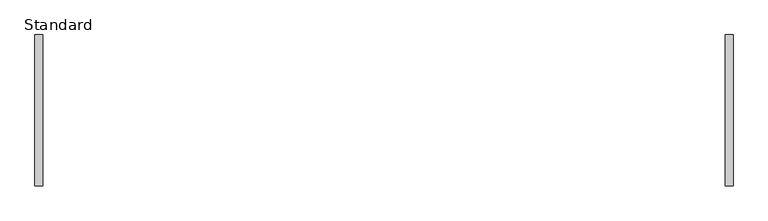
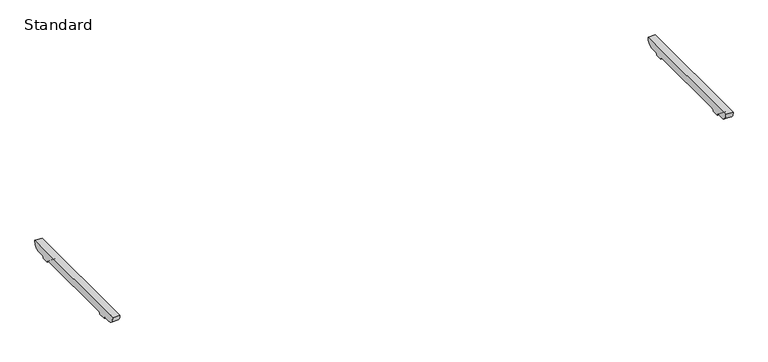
"""IFC4 building model written with IfcOpenShell, lengths in millimetres: furniture geometry, BDG_BossDesign_Tbls_AgentTables4Legs_Nested : Standard."""

from ifc_helpers import new_model, si_unit, point, frame, frame_2d, origin, place, context, project, spatial, polyline, circle_curve, trimmed, segment, composite_curve, outline, extrude, source, transform, mapped, element, save


def standard_79f6cf34(model_context):
    return source(origin(), model_context, "Body", "SweptSolid", [
        extrude(outline(composite_curve([segment(polyline([(380.5450184, 672.0), (342.7000122, 672.0)]), True, "CONTINUOUS"), segment(trimmed(circle_curve(frame_2d((342.7000122, 660.0)), 12.0), [point((342.7000122, 672.0))], [point((330.7000122, 660.0))], True, "CARTESIAN"), True, "CONTINUOUS"), segment(polyline([(330.7000122, 660.0), (285.7000122, 660.0)]), True, "CONTINUOUS"), segment(trimmed(circle_curve(frame_2d((273.7000122, 660.0)), 12.0), [point((285.7000122, 660.0))], [point((273.7000122, 672.0))], True, "CARTESIAN"), True, "CONTINUOUS"), segment(polyline([(273.7000122, 672.0), (-273.7000122, 672.0)]), True, "CONTINUOUS"), segment(trimmed(circle_curve(frame_2d((-273.7000122, 660.0)), 12.0), [point((-273.7000122, 672.0))], [point((-285.7000122, 660.0))], True, "CARTESIAN"), True, "CONTINUOUS"), segment(polyline([(-285.7000122, 660.0), (-330.7000122, 660.0)]), True, "CONTINUOUS"), segment(trimmed(circle_curve(frame_2d((-342.7000122, 660.0)), 12.0), [point((-330.7000122, 660.0))], [point((-342.7000122, 672.0))], True, "CARTESIAN"), True, "CONTINUOUS"), segment(polyline([(-342.7000122, 672.0), (-380.5450184, 672.0)]), True, "CONTINUOUS"), segment(trimmed(circle_curve(frame_2d((-378.2220439, 716.5514119)), 44.6119324), [point((-380.5450184, 672.0))], [point((-422.5, 722.0))], False, "CARTESIAN"), True, "CONTINUOUS"), segment(polyline([(-422.5, 722.0), (422.5, 722.0)]), True, "CONTINUOUS"), segment(trimmed(circle_curve(frame_2d((378.2220439, 716.5514119)), 44.6119324), [point((422.5, 722.0))], [point((380.5450184, 672.0))], False, "CARTESIAN"), True, "CONTINUOUS")], self_intersect=False)), frame((1905.0, 0.0, 0.0), z_axis=(1.0, 0.0, 0.0), x_axis=(0.0, 1.0, 0.0)), (0.0, 0.0, 1.0), 45.0),
        extrude(outline(composite_curve([segment(polyline([(380.5450184, 672.0), (342.7000122, 672.0)]), True, "CONTINUOUS"), segment(trimmed(circle_curve(frame_2d((342.7000122, 660.0)), 12.0), [point((342.7000122, 672.0))], [point((330.7000122, 660.0))], True, "CARTESIAN"), True, "CONTINUOUS"), segment(polyline([(330.7000122, 660.0), (285.7000122, 660.0)]), True, "CONTINUOUS"), segment(trimmed(circle_curve(frame_2d((273.7000122, 660.0)), 12.0), [point((285.7000122, 660.0))], [point((273.7000122, 672.0))], True, "CARTESIAN"), True, "CONTINUOUS"), segment(polyline([(273.7000122, 672.0), (-273.7000122, 672.0)]), True, "CONTINUOUS"), segment(trimmed(circle_curve(frame_2d((-273.7000122, 660.0)), 12.0), [point((-273.7000122, 672.0))], [point((-285.7000122, 660.0))], True, "CARTESIAN"), True, "CONTINUOUS"), segment(polyline([(-285.7000122, 660.0), (-330.7000122, 660.0)]), True, "CONTINUOUS"), segment(trimmed(circle_curve(frame_2d((-342.7000122, 660.0)), 12.0), [point((-330.7000122, 660.0))], [point((-342.7000122, 672.0))], True, "CARTESIAN"), True, "CONTINUOUS"), segment(polyline([(-342.7000122, 672.0), (-380.5450184, 672.0)]), True, "CONTINUOUS"), segment(trimmed(circle_curve(frame_2d((-378.2220439, 716.5514119)), 44.6119324), [point((-380.5450184, 672.0))], [point((-422.5, 722.0))], False, "CARTESIAN"), True, "CONTINUOUS"), segment(polyline([(-422.5, 722.0), (422.5, 722.0)]), True, "CONTINUOUS"), segment(trimmed(circle_curve(frame_2d((378.2220439, 716.5514119)), 44.6119324), [point((422.5, 722.0))], [point((380.5450184, 672.0))], False, "CARTESIAN"), True, "CONTINUOUS")], self_intersect=False)), frame((-1950.0, 0.0, 0.0), z_axis=(1.0, 0.0, 0.0), x_axis=(0.0, 1.0, 0.0)), (0.0, 0.0, 1.0), 45.0),
    ])


if __name__ == "__main__":
    model = new_model("IFC4")
    model_context = context("Model", 3, world=origin())
    ifc_project = project(units=[si_unit("LENGTHUNIT", "METRE", prefix="MILLI")], contexts=[model_context])
    site = spatial("IfcSite", under=ifc_project)
    building = spatial("IfcBuilding", under=site)
    placement = place(None, origin())
    standard_shape = standard_79f6cf34(model_context)
    element("IfcFurniture", 1, ObjectType="BDG_BossDesign_Tbls_AgentTables4Legs_Nested : Standard", at=placement, inside=building, context=model_context, shape_type="MappedRepresentation", body=[
        mapped(standard_shape, transform((0.0, 0.0, 0.0), x_axis=(1.0, 0.0, 0.0), y_axis=(0.0, 1.0, 0.0), z_axis=(0.0, 0.0, 1.0))),
    ])
    save(model, "model.ifc")
